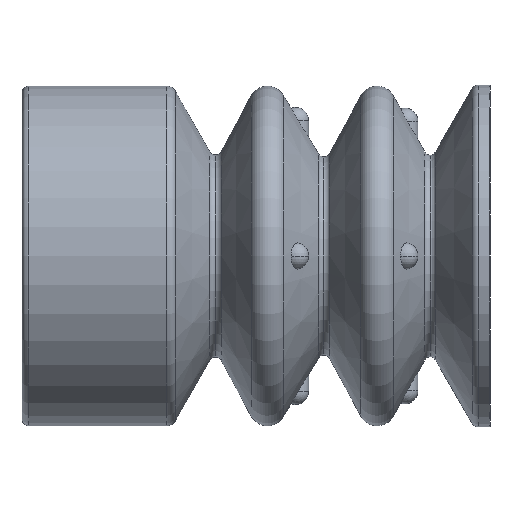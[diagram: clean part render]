
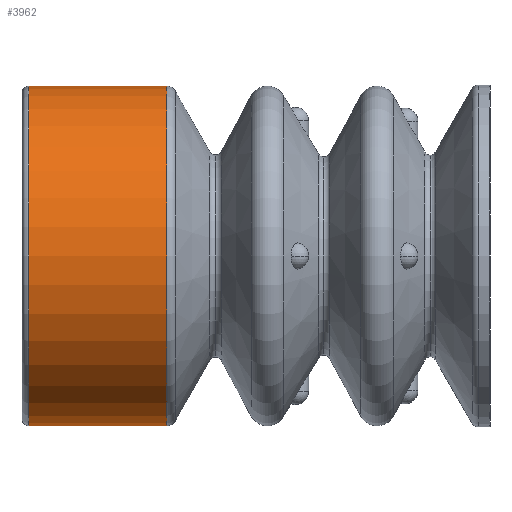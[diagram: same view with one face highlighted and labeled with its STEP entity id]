
A CAD part, left-side view. The second image highlights one B-rep face of the part: STEP entity #3962.
In plain terms, the highlighted cylindrical face has radius 12.478 mm (diameter 24.956 mm), a partial arc.
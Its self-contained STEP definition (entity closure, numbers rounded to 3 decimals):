
#64 = CIRCLE ( 'NONE', #650, 12.478 ) ;
#418 = EDGE_CURVE ( 'NONE', #2869, #2710, #1782, .T. ) ;
#650 = AXIS2_PLACEMENT_3D ( 'NONE', #4397, #4080, #2150 ) ;
#793 = CARTESIAN_POINT ( 'NONE',  ( 0., -0.802, -12.478 ) ) ;
#962 = CARTESIAN_POINT ( 'NONE',  ( 0., -0.802, 12.478 ) ) ;
#1028 = AXIS2_PLACEMENT_3D ( 'NONE', #1421, #3109, #4511 ) ;
#1040 = ORIENTED_EDGE ( 'NONE', *, *, #3443, .F. ) ;
#1251 = EDGE_LOOP ( 'NONE', ( #1040, #1494, #2268, #3520 ) ) ;
#1395 = CARTESIAN_POINT ( 'NONE',  ( 0., -0.802, 0. ) ) ;
#1421 = CARTESIAN_POINT ( 'NONE',  ( 0., -0.295, 0. ) ) ;
#1494 = ORIENTED_EDGE ( 'NONE', *, *, #2580, .T. ) ;
#1713 = CYLINDRICAL_SURFACE ( 'NONE', #1028, 12.478 ) ;
#1782 = CIRCLE ( 'NONE', #1921, 12.478 ) ;
#1921 = AXIS2_PLACEMENT_3D ( 'NONE', #1395, #2176, #2116 ) ;
#1957 = CARTESIAN_POINT ( 'NONE',  ( 0., -0.295, -12.478 ) ) ;
#1977 = EDGE_CURVE ( 'NONE', #3822, #2710, #3848, .T. ) ;
#1982 = CARTESIAN_POINT ( 'NONE',  ( 0., -10.94, -12.478 ) ) ;
#2100 = CARTESIAN_POINT ( 'NONE',  ( 0., -0.295, 12.478 ) ) ;
#2116 = DIRECTION ( 'NONE',  ( 0., 0., 1. ) ) ;
#2150 = DIRECTION ( 'NONE',  ( 0., 0., 1. ) ) ;
#2176 = DIRECTION ( 'NONE',  ( 0., 1., 0. ) ) ;
#2268 = ORIENTED_EDGE ( 'NONE', *, *, #1977, .T. ) ;
#2390 = LINE ( 'NONE', #1957, #2467 ) ;
#2467 = VECTOR ( 'NONE', #4482, 1000. ) ;
#2580 = EDGE_CURVE ( 'NONE', #3465, #3822, #64, .T. ) ;
#2710 = VERTEX_POINT ( 'NONE', #962 ) ;
#2787 = FACE_OUTER_BOUND ( 'NONE', #1251, .T. ) ;
#2869 = VERTEX_POINT ( 'NONE', #793 ) ;
#3109 = DIRECTION ( 'NONE',  ( 0., 1., 0. ) ) ;
#3443 = EDGE_CURVE ( 'NONE', #3465, #2869, #2390, .T. ) ;
#3465 = VERTEX_POINT ( 'NONE', #1982 ) ;
#3520 = ORIENTED_EDGE ( 'NONE', *, *, #418, .F. ) ;
#3773 = CARTESIAN_POINT ( 'NONE',  ( 0., -10.94, 12.478 ) ) ;
#3822 = VERTEX_POINT ( 'NONE', #3773 ) ;
#3848 = LINE ( 'NONE', #2100, #4523 ) ;
#3892 = DIRECTION ( 'NONE',  ( 0., 1., 0. ) ) ;
#3962 = ADVANCED_FACE ( 'NONE', ( #2787 ), #1713, .T. ) ;
#4080 = DIRECTION ( 'NONE',  ( 0., 1., 0. ) ) ;
#4397 = CARTESIAN_POINT ( 'NONE',  ( 0., -10.94, 0. ) ) ;
#4482 = DIRECTION ( 'NONE',  ( 0., 1., 0. ) ) ;
#4511 = DIRECTION ( 'NONE',  ( 0., 0., 1. ) ) ;
#4523 = VECTOR ( 'NONE', #3892, 1000. ) ;
